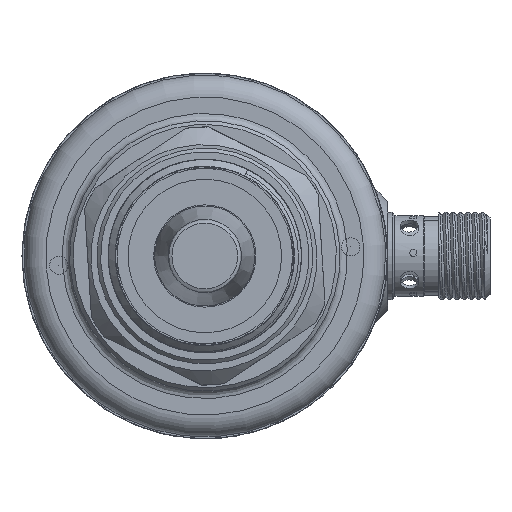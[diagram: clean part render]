
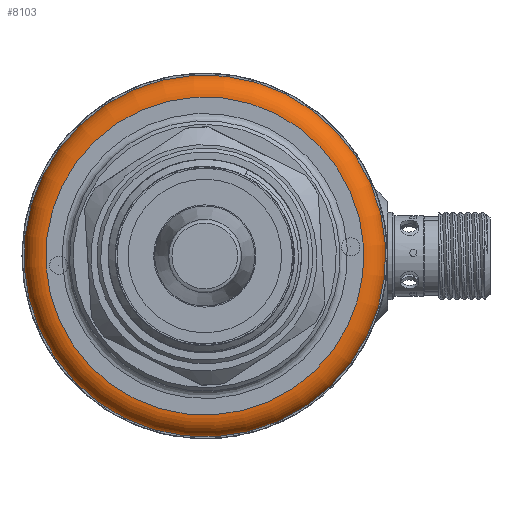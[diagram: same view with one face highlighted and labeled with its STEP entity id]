
A CAD part, front view. The second image highlights one B-rep face of the part: STEP entity #8103.
In plain terms, the highlighted toroidal (fillet/blend) face has major radius 21.75 mm and minor radius 3 mm.
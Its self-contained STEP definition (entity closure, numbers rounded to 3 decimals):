
#556 = EDGE_LOOP ( 'NONE', ( #2199 ) ) ;
#1358 = TOROIDAL_SURFACE ( 'NONE', #13383, 21.75, 3. ) ;
#1974 = DIRECTION ( 'NONE',  ( 0., 0., -1. ) ) ;
#2199 = ORIENTED_EDGE ( 'NONE', *, *, #4570, .F. ) ;
#2213 = EDGE_CURVE ( 'NONE', #10596, #10596, #13985, .T. ) ;
#3924 = AXIS2_PLACEMENT_3D ( 'NONE', #10386, #6660, #6736 ) ;
#4259 = DIRECTION ( 'NONE',  ( 0., 0., -1. ) ) ;
#4570 = EDGE_CURVE ( 'NONE', #5280, #5280, #8482, .T. ) ;
#5280 = VERTEX_POINT ( 'NONE', #7672 ) ;
#5757 = DIRECTION ( 'NONE',  ( 1., 0., 0. ) ) ;
#6660 = DIRECTION ( 'NONE',  ( -1., 0., 0. ) ) ;
#6736 = DIRECTION ( 'NONE',  ( 0., 0., -1. ) ) ;
#7069 = ORIENTED_EDGE ( 'NONE', *, *, #2213, .F. ) ;
#7479 = AXIS2_PLACEMENT_3D ( 'NONE', #13589, #5757, #4259 ) ;
#7672 = CARTESIAN_POINT ( 'NONE',  ( 41., 0., -22.025 ) ) ;
#8103 = ADVANCED_FACE ( 'NONE', ( #14473, #13339 ), #1358, .T. ) ;
#8482 = CIRCLE ( 'NONE', #3924, 21.75 ) ;
#8798 = CARTESIAN_POINT ( 'NONE',  ( 44., 0., -0.275 ) ) ;
#10386 = CARTESIAN_POINT ( 'NONE',  ( 41., 0., -0.275 ) ) ;
#10596 = VERTEX_POINT ( 'NONE', #12038 ) ;
#12038 = CARTESIAN_POINT ( 'NONE',  ( 44., 0., -25.025 ) ) ;
#12852 = EDGE_LOOP ( 'NONE', ( #7069 ) ) ;
#13339 = FACE_OUTER_BOUND ( 'NONE', #556, .T. ) ;
#13383 = AXIS2_PLACEMENT_3D ( 'NONE', #8798, #13412, #1974 ) ;
#13412 = DIRECTION ( 'NONE',  ( 1., 0., 0. ) ) ;
#13589 = CARTESIAN_POINT ( 'NONE',  ( 44., 0., -0.275 ) ) ;
#13985 = CIRCLE ( 'NONE', #7479, 24.75 ) ;
#14473 = FACE_OUTER_BOUND ( 'NONE', #12852, .T. ) ;
